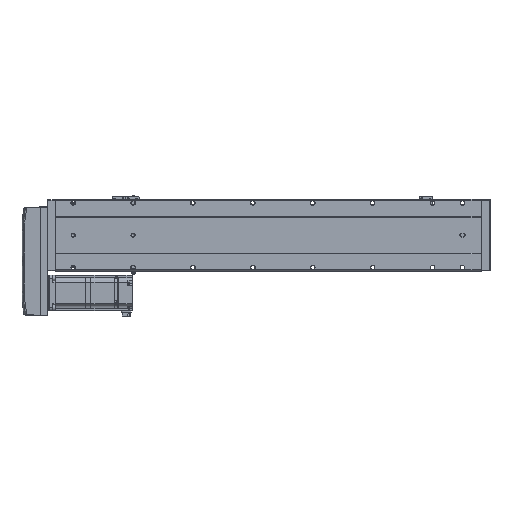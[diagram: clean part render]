
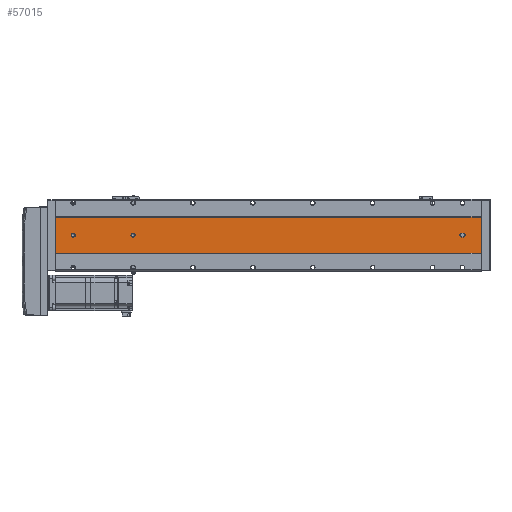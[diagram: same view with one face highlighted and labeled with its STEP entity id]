
A CAD part, front view. The second image highlights one B-rep face of the part: STEP entity #57015.
In plain terms, the highlighted planar face has unit normal (0, -1, 0).
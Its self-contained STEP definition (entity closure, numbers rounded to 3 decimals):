
#146 = EDGE_CURVE ( 'NONE', #47477, #4487, #14512, .T. ) ;
#2484 = CARTESIAN_POINT ( 'NONE',  ( -39.892, -52.848, 30. ) ) ;
#2697 = CIRCLE ( 'NONE', #56963, 3.5 ) ;
#2753 = DIRECTION ( 'NONE',  ( 0., 1., 0. ) ) ;
#3066 = AXIS2_PLACEMENT_3D ( 'NONE', #68722, #31030, #75166 ) ;
#3714 = CARTESIAN_POINT ( 'NONE',  ( -39.892, -52.848, 681. ) ) ;
#4487 = VERTEX_POINT ( 'NONE', #63462 ) ;
#4982 = EDGE_LOOP ( 'NONE', ( #42074, #16415, #30970, #66819 ) ) ;
#5183 = DIRECTION ( 'NONE',  ( 0., 0., 1. ) ) ;
#6282 = EDGE_LOOP ( 'NONE', ( #59157, #63749 ) ) ;
#6330 = CARTESIAN_POINT ( 'NONE',  ( -39.892, -52.848, 581. ) ) ;
#7015 = VECTOR ( 'NONE', #20381, 1000. ) ;
#7467 = CARTESIAN_POINT ( 'NONE',  ( -9.892, -52.848, 711. ) ) ;
#7636 = ORIENTED_EDGE ( 'NONE', *, *, #36694, .T. ) ;
#11467 = AXIS2_PLACEMENT_3D ( 'NONE', #55471, #30942, #61203 ) ;
#12563 = CARTESIAN_POINT ( 'NONE',  ( -39.892, -52.848, 684.5 ) ) ;
#14512 = LINE ( 'NONE', #79142, #46028 ) ;
#16415 = ORIENTED_EDGE ( 'NONE', *, *, #70799, .F. ) ;
#16509 = DIRECTION ( 'NONE',  ( 0., 0., 1. ) ) ;
#16642 = CARTESIAN_POINT ( 'NONE',  ( -9.892, -52.848, 0. ) ) ;
#18958 = ORIENTED_EDGE ( 'NONE', *, *, #64430, .T. ) ;
#19007 = CARTESIAN_POINT ( 'NONE',  ( -39.892, -52.848, 26.5 ) ) ;
#19216 = EDGE_CURVE ( 'NONE', #37406, #22807, #50853, .T. ) ;
#20381 = DIRECTION ( 'NONE',  ( 0., 0., 1. ) ) ;
#20507 = AXIS2_PLACEMENT_3D ( 'NONE', #2484, #2753, #59839 ) ;
#21345 = AXIS2_PLACEMENT_3D ( 'NONE', #39125, #76955, #58621 ) ;
#22501 = DIRECTION ( 'NONE',  ( 1., 0., 0. ) ) ;
#22807 = VERTEX_POINT ( 'NONE', #19007 ) ;
#23170 = CARTESIAN_POINT ( 'NONE',  ( -39.892, -52.848, 32. ) ) ;
#23709 = FACE_OUTER_BOUND ( 'NONE', #4982, .T. ) ;
#24849 = VECTOR ( 'NONE', #48605, 1000. ) ;
#26550 = CARTESIAN_POINT ( 'NONE',  ( -39.892, -52.848, 584.5 ) ) ;
#26680 = LINE ( 'NONE', #7467, #73074 ) ;
#28186 = CARTESIAN_POINT ( 'NONE',  ( -39.892, -52.848, 677.5 ) ) ;
#30338 = CARTESIAN_POINT ( 'NONE',  ( -43.392, -52.848, 32. ) ) ;
#30942 = DIRECTION ( 'NONE',  ( 0., 1., 0. ) ) ;
#30970 = ORIENTED_EDGE ( 'NONE', *, *, #63630, .F. ) ;
#31030 = DIRECTION ( 'NONE',  ( 0., 1., 0. ) ) ;
#31330 = VERTEX_POINT ( 'NONE', #28186 ) ;
#31506 = VERTEX_POINT ( 'NONE', #74515 ) ;
#31762 = LINE ( 'NONE', #79602, #24849 ) ;
#32062 = DIRECTION ( 'NONE',  ( 0., 1., 0. ) ) ;
#32577 = EDGE_CURVE ( 'NONE', #39083, #37406, #31762, .T. ) ;
#32590 = FACE_BOUND ( 'NONE', #6282, .T. ) ;
#34725 = LINE ( 'NONE', #39379, #7015 ) ;
#35020 = CIRCLE ( 'NONE', #47061, 3.5 ) ;
#35300 = EDGE_CURVE ( 'NONE', #31506, #57199, #40498, .T. ) ;
#35503 = CARTESIAN_POINT ( 'NONE',  ( -69.892, -52.848, 711. ) ) ;
#35912 = AXIS2_PLACEMENT_3D ( 'NONE', #23170, #67246, #59793 ) ;
#36103 = VECTOR ( 'NONE', #22501, 1000. ) ;
#36694 = EDGE_CURVE ( 'NONE', #22807, #38361, #2697, .T. ) ;
#37406 = VERTEX_POINT ( 'NONE', #79664 ) ;
#38361 = VERTEX_POINT ( 'NONE', #69826 ) ;
#39083 = VERTEX_POINT ( 'NONE', #77249 ) ;
#39125 = CARTESIAN_POINT ( 'NONE',  ( -39.892, -52.848, 681. ) ) ;
#39379 = CARTESIAN_POINT ( 'NONE',  ( -43.392, -52.848, 711. ) ) ;
#39811 = ORIENTED_EDGE ( 'NONE', *, *, #56233, .T. ) ;
#40498 = CIRCLE ( 'NONE', #11467, 3.5 ) ;
#41023 = DIRECTION ( 'NONE',  ( 0., 1., 0. ) ) ;
#42032 = EDGE_CURVE ( 'NONE', #31330, #46804, #78292, .T. ) ;
#42074 = ORIENTED_EDGE ( 'NONE', *, *, #62291, .T. ) ;
#42736 = DIRECTION ( 'NONE',  ( 0., 1., 0. ) ) ;
#44986 = DIRECTION ( 'NONE',  ( 0., 0., -1. ) ) ;
#46028 = VECTOR ( 'NONE', #59724, 1000. ) ;
#46067 = EDGE_LOOP ( 'NONE', ( #62007, #72505, #7636, #73632, #18958 ) ) ;
#46367 = EDGE_CURVE ( 'NONE', #38361, #59603, #34725, .T. ) ;
#46804 = VERTEX_POINT ( 'NONE', #12563 ) ;
#47061 = AXIS2_PLACEMENT_3D ( 'NONE', #6330, #32062, #75121 ) ;
#47090 = CARTESIAN_POINT ( 'NONE',  ( -9.892, -52.848, 711. ) ) ;
#47277 = CIRCLE ( 'NONE', #70195, 3.5 ) ;
#47468 = CIRCLE ( 'NONE', #35912, 3.5 ) ;
#47477 = VERTEX_POINT ( 'NONE', #35503 ) ;
#48605 = DIRECTION ( 'NONE',  ( 0., 0., -1. ) ) ;
#49426 = PLANE ( 'NONE',  #3066 ) ;
#49890 = LINE ( 'NONE', #54474, #36103 ) ;
#50853 = CIRCLE ( 'NONE', #20507, 3.5 ) ;
#54244 = DIRECTION ( 'NONE',  ( 1., 0., 0. ) ) ;
#54474 = CARTESIAN_POINT ( 'NONE',  ( -69.892, -52.848, 0. ) ) ;
#54809 = CARTESIAN_POINT ( 'NONE',  ( -69.892, -52.848, 711. ) ) ;
#55471 = CARTESIAN_POINT ( 'NONE',  ( -39.892, -52.848, 581. ) ) ;
#56233 = EDGE_CURVE ( 'NONE', #46804, #31330, #47277, .T. ) ;
#56963 = AXIS2_PLACEMENT_3D ( 'NONE', #61467, #42736, #5183 ) ;
#57015 = ADVANCED_FACE ( 'NONE', ( #70038, #32590, #71028, #23709 ), #49426, .F. ) ;
#57199 = VERTEX_POINT ( 'NONE', #26550 ) ;
#58621 = DIRECTION ( 'NONE',  ( 0., 0., 1. ) ) ;
#58885 = VERTEX_POINT ( 'NONE', #16642 ) ;
#59124 = EDGE_CURVE ( 'NONE', #57199, #31506, #35020, .T. ) ;
#59157 = ORIENTED_EDGE ( 'NONE', *, *, #35300, .T. ) ;
#59603 = VERTEX_POINT ( 'NONE', #30338 ) ;
#59724 = DIRECTION ( 'NONE',  ( 0., 0., -1. ) ) ;
#59793 = DIRECTION ( 'NONE',  ( 0., 0., 1. ) ) ;
#59839 = DIRECTION ( 'NONE',  ( 0., 0., 1. ) ) ;
#61203 = DIRECTION ( 'NONE',  ( 0., 0., 1. ) ) ;
#61467 = CARTESIAN_POINT ( 'NONE',  ( -39.892, -52.848, 30. ) ) ;
#61713 = ORIENTED_EDGE ( 'NONE', *, *, #42032, .T. ) ;
#62007 = ORIENTED_EDGE ( 'NONE', *, *, #32577, .T. ) ;
#62291 = EDGE_CURVE ( 'NONE', #4487, #58885, #49890, .T. ) ;
#62460 = LINE ( 'NONE', #54809, #63398 ) ;
#63398 = VECTOR ( 'NONE', #54244, 1000. ) ;
#63462 = CARTESIAN_POINT ( 'NONE',  ( -69.892, -52.848, 0. ) ) ;
#63630 = EDGE_CURVE ( 'NONE', #47477, #67799, #62460, .T. ) ;
#63749 = ORIENTED_EDGE ( 'NONE', *, *, #59124, .T. ) ;
#64430 = EDGE_CURVE ( 'NONE', #59603, #39083, #47468, .T. ) ;
#66819 = ORIENTED_EDGE ( 'NONE', *, *, #146, .T. ) ;
#67246 = DIRECTION ( 'NONE',  ( 0., 1., 0. ) ) ;
#67799 = VERTEX_POINT ( 'NONE', #47090 ) ;
#68722 = CARTESIAN_POINT ( 'NONE',  ( -69.892, -52.848, 711. ) ) ;
#69826 = CARTESIAN_POINT ( 'NONE',  ( -43.392, -52.848, 30. ) ) ;
#70038 = FACE_BOUND ( 'NONE', #46067, .T. ) ;
#70195 = AXIS2_PLACEMENT_3D ( 'NONE', #3714, #41023, #16509 ) ;
#70799 = EDGE_CURVE ( 'NONE', #67799, #58885, #26680, .T. ) ;
#71028 = FACE_BOUND ( 'NONE', #72344, .T. ) ;
#72344 = EDGE_LOOP ( 'NONE', ( #61713, #39811 ) ) ;
#72505 = ORIENTED_EDGE ( 'NONE', *, *, #19216, .T. ) ;
#73074 = VECTOR ( 'NONE', #44986, 1000. ) ;
#73632 = ORIENTED_EDGE ( 'NONE', *, *, #46367, .T. ) ;
#74515 = CARTESIAN_POINT ( 'NONE',  ( -39.892, -52.848, 577.5 ) ) ;
#75121 = DIRECTION ( 'NONE',  ( 0., 0., 1. ) ) ;
#75166 = DIRECTION ( 'NONE',  ( 0., 0., 1. ) ) ;
#76955 = DIRECTION ( 'NONE',  ( 0., 1., 0. ) ) ;
#77249 = CARTESIAN_POINT ( 'NONE',  ( -36.392, -52.848, 32. ) ) ;
#78292 = CIRCLE ( 'NONE', #21345, 3.5 ) ;
#79142 = CARTESIAN_POINT ( 'NONE',  ( -69.892, -52.848, 711. ) ) ;
#79602 = CARTESIAN_POINT ( 'NONE',  ( -36.392, -52.848, 711. ) ) ;
#79664 = CARTESIAN_POINT ( 'NONE',  ( -36.392, -52.848, 30. ) ) ;
